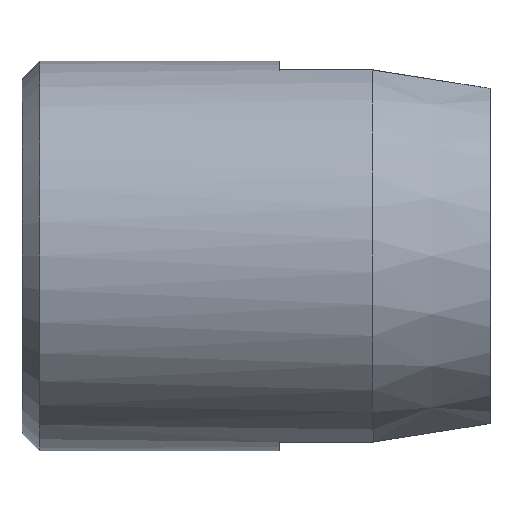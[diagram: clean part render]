
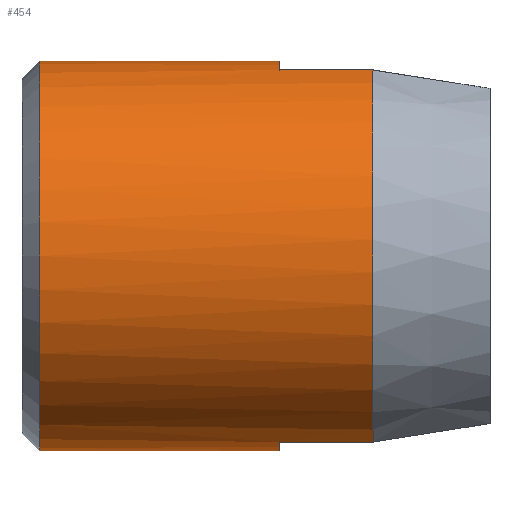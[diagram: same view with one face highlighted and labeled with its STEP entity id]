
A CAD part, front view. The second image highlights one B-rep face of the part: STEP entity #454.
In plain terms, the highlighted cylindrical face has radius 2.5 mm (diameter 5 mm), a partial arc.
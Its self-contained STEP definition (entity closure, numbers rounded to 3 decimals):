
#33 = DIRECTION ( 'NONE',  ( -1., 0., 0. ) ) ;
#35 = FACE_OUTER_BOUND ( 'NONE', #263, .T. ) ;
#47 = DIRECTION ( 'NONE',  ( 1., 0., 0. ) ) ;
#55 = LINE ( 'NONE', #120, #625 ) ;
#64 = CIRCLE ( 'NONE', #162, 2.5 ) ;
#81 = AXIS2_PLACEMENT_3D ( 'NONE', #237, #738, #431 ) ;
#86 = EDGE_CURVE ( 'NONE', #512, #693, #559, .T. ) ;
#87 = DIRECTION ( 'NONE',  ( 1., 0., 0. ) ) ;
#97 = VERTEX_POINT ( 'NONE', #261 ) ;
#107 = LINE ( 'NONE', #636, #284 ) ;
#111 = DIRECTION ( 'NONE',  ( 1., 0., 0. ) ) ;
#113 = CIRCLE ( 'NONE', #373, 2.5 ) ;
#120 = CARTESIAN_POINT ( 'NONE',  ( 21.562, 0., 2.5 ) ) ;
#128 = ORIENTED_EDGE ( 'NONE', *, *, #598, .F. ) ;
#132 = LINE ( 'NONE', #364, #273 ) ;
#162 = AXIS2_PLACEMENT_3D ( 'NONE', #680, #385, #216 ) ;
#164 = DIRECTION ( 'NONE',  ( 0., 0., 1. ) ) ;
#165 = VERTEX_POINT ( 'NONE', #473 ) ;
#172 = CARTESIAN_POINT ( 'NONE',  ( -1.5, -0.75, -2.385 ) ) ;
#180 = ORIENTED_EDGE ( 'NONE', *, *, #193, .F. ) ;
#193 = EDGE_CURVE ( 'NONE', #653, #97, #55, .T. ) ;
#195 = CARTESIAN_POINT ( 'NONE',  ( -2.7, 0., -2.5 ) ) ;
#214 = VERTEX_POINT ( 'NONE', #542 ) ;
#216 = DIRECTION ( 'NONE',  ( 0., 0., 1. ) ) ;
#220 = EDGE_CURVE ( 'NONE', #214, #682, #132, .T. ) ;
#237 = CARTESIAN_POINT ( 'NONE',  ( -1.5, 0., 0. ) ) ;
#261 = CARTESIAN_POINT ( 'NONE',  ( -2.7, 0., 2.5 ) ) ;
#263 = EDGE_LOOP ( 'NONE', ( #180, #299, #722, #422, #336, #659, #742, #128 ) ) ;
#273 = VECTOR ( 'NONE', #87, 1000. ) ;
#284 = VECTOR ( 'NONE', #340, 1000. ) ;
#289 = DIRECTION ( 'NONE',  ( 1., 0., 0. ) ) ;
#299 = ORIENTED_EDGE ( 'NONE', *, *, #592, .T. ) ;
#336 = ORIENTED_EDGE ( 'NONE', *, *, #86, .F. ) ;
#340 = DIRECTION ( 'NONE',  ( 1., 0., 0. ) ) ;
#364 = CARTESIAN_POINT ( 'NONE',  ( 21.562, 0., -2.5 ) ) ;
#373 = AXIS2_PLACEMENT_3D ( 'NONE', #707, #465, #164 ) ;
#385 = DIRECTION ( 'NONE',  ( 1., 0., 0. ) ) ;
#422 = ORIENTED_EDGE ( 'NONE', *, *, #445, .F. ) ;
#431 = DIRECTION ( 'NONE',  ( 0., 0., -1. ) ) ;
#445 = EDGE_CURVE ( 'NONE', #693, #682, #64, .T. ) ;
#454 = ADVANCED_FACE ( 'NONE', ( #35 ), #510, .T. ) ;
#458 = DIRECTION ( 'NONE',  ( 0., 0., 1. ) ) ;
#465 = DIRECTION ( 'NONE',  ( 1., 0., 0. ) ) ;
#469 = CIRCLE ( 'NONE', #81, 2.5 ) ;
#473 = CARTESIAN_POINT ( 'NONE',  ( -2.7, -0.75, 2.385 ) ) ;
#510 = CYLINDRICAL_SURFACE ( 'NONE', #697, 2.5 ) ;
#512 = VERTEX_POINT ( 'NONE', #172 ) ;
#534 = EDGE_CURVE ( 'NONE', #165, #649, #107, .T. ) ;
#542 = CARTESIAN_POINT ( 'NONE',  ( -5.775, 0., -2.5 ) ) ;
#550 = CARTESIAN_POINT ( 'NONE',  ( -1.5, -0.75, 2.385 ) ) ;
#559 = LINE ( 'NONE', #672, #588 ) ;
#568 = CARTESIAN_POINT ( 'NONE',  ( 21.562, 0., 0. ) ) ;
#575 = DIRECTION ( 'NONE',  ( 0., 0., -1. ) ) ;
#577 = CARTESIAN_POINT ( 'NONE',  ( -5.775, 0., 0. ) ) ;
#588 = VECTOR ( 'NONE', #33, 1000. ) ;
#592 = EDGE_CURVE ( 'NONE', #653, #214, #596, .T. ) ;
#596 = CIRCLE ( 'NONE', #751, 2.5 ) ;
#598 = EDGE_CURVE ( 'NONE', #97, #165, #113, .T. ) ;
#625 = VECTOR ( 'NONE', #111, 1000. ) ;
#636 = CARTESIAN_POINT ( 'NONE',  ( 21.562, -0.75, 2.385 ) ) ;
#649 = VERTEX_POINT ( 'NONE', #550 ) ;
#653 = VERTEX_POINT ( 'NONE', #711 ) ;
#659 = ORIENTED_EDGE ( 'NONE', *, *, #679, .F. ) ;
#667 = CARTESIAN_POINT ( 'NONE',  ( -2.7, -0.75, -2.385 ) ) ;
#672 = CARTESIAN_POINT ( 'NONE',  ( 21.562, -0.75, -2.385 ) ) ;
#679 = EDGE_CURVE ( 'NONE', #649, #512, #469, .T. ) ;
#680 = CARTESIAN_POINT ( 'NONE',  ( -2.7, 0., 0. ) ) ;
#682 = VERTEX_POINT ( 'NONE', #195 ) ;
#693 = VERTEX_POINT ( 'NONE', #667 ) ;
#697 = AXIS2_PLACEMENT_3D ( 'NONE', #568, #47, #575 ) ;
#707 = CARTESIAN_POINT ( 'NONE',  ( -2.7, 0., 0. ) ) ;
#711 = CARTESIAN_POINT ( 'NONE',  ( -5.775, 0., 2.5 ) ) ;
#722 = ORIENTED_EDGE ( 'NONE', *, *, #220, .T. ) ;
#738 = DIRECTION ( 'NONE',  ( 1., 0., 0. ) ) ;
#742 = ORIENTED_EDGE ( 'NONE', *, *, #534, .F. ) ;
#751 = AXIS2_PLACEMENT_3D ( 'NONE', #577, #289, #458 ) ;
